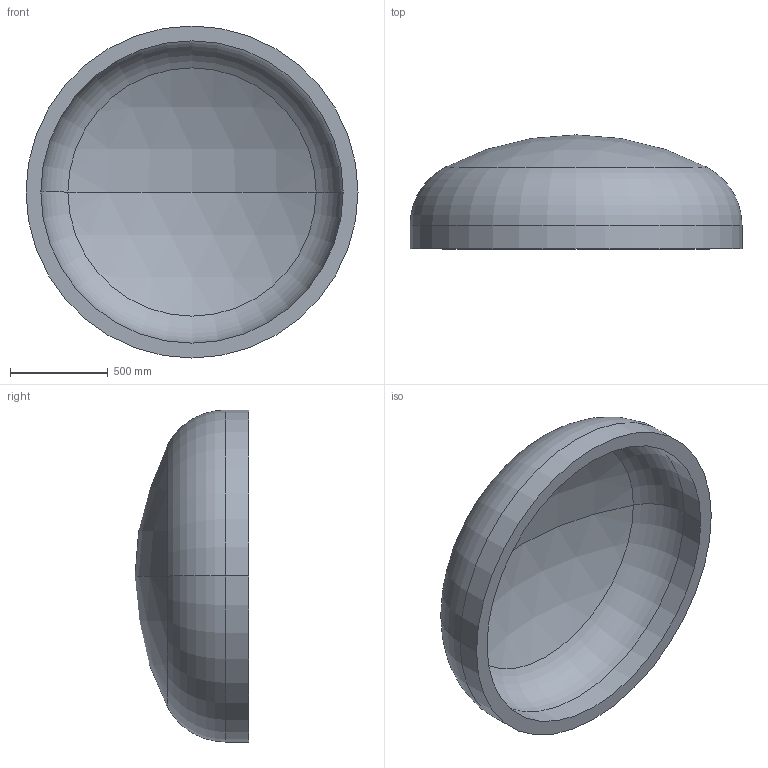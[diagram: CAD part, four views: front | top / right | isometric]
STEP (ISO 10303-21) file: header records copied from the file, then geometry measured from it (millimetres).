
FILE_DESCRIPTION (( 'STEP AP203' ), '1' );
FILE_NAME ('DIN 28013 Korbbogenform_-_Boden DIN 28013 - 1700 x 120 - I - s=76.step', '2016-07-01T12:01:29', ( '' ), ( '' ), 'SwSTEP 2.0', 'SolidWorks 2013', '' );
FILE_SCHEMA (( 'CONFIG_CONTROL_DESIGN' ));
Length unit declared in the file: millimetre
Products named in the file (1): DIN 28013 Korbbogenform_-_Boden DIN 28013 - 1700 x 120 - I - s=76
Bounding box: 1700 x 583.48 x 1700 mm (x, y, z)
Volume: 271735262 mm3; surface area: 7550771.2 mm2
Topology: 1 solids, 1 shells, 13 faces, 24 edges, 14 vertices
Faces by surface type: torus 4, cylinder 4, sphere 4, plane 1
Entity records: 407 total; most frequent: DIRECTION 72, CARTESIAN_POINT 52, ORIENTED_EDGE 48, AXIS2_PLACEMENT_3D 34, EDGE_CURVE 24, CIRCLE 20, VERTEX_POINT 14, EDGE_LOOP 14
